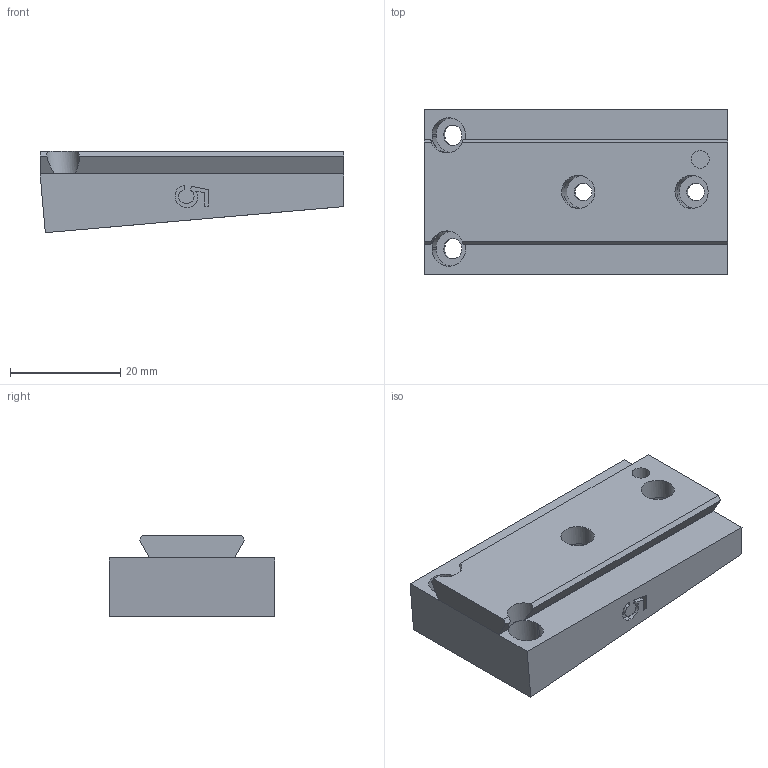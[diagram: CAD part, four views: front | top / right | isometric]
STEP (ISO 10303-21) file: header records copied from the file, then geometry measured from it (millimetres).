
FILE_DESCRIPTION(/* description */ (''),/* implementation_level */ '2;1');
FILE_NAME(/* name */ 'Camera_slide_5deg_v37.step',/* time_stamp */ '2023-10-16T15:10:25-07:00',/* author */ (''),/* organization */ (''),/* preprocessor_version */ 'ST-DEVELOPER v20',/* originating_system */ 'Autodesk Translation Framework v12.9.0.99',/* authorisation */ '');
FILE_SCHEMA (('AUTOMOTIVE_DESIGN { 1 0 10303 214 3 1 1 }'));
Length unit declared in the file: millimetre
Products named in the file (3): Camera_slide; Dovetail Camera; Component3
Assembly tree (2 placements, depth 3):
  Camera_slide
    Dovetail Camera
      Component3
Bounding box: 55 x 30 x 14.73 mm (x, y, z)
Volume: 16263.7 mm3; surface area: 7852.7 mm2
Topology: 2 solids, 2 shells, 129 faces, 357 edges, 238 vertices
Faces by surface type: plane 62, bspline 50, cylinder 17
Full cylindrical faces by diameter (mm): 3.2 x3, 6 x4
Entity records: 4679 total; most frequent: CARTESIAN_POINT 1579, ORIENTED_EDGE 714, DIRECTION 471, EDGE_CURVE 357, VERTEX_POINT 238, LINE 211, VECTOR 211, EDGE_LOOP 149
